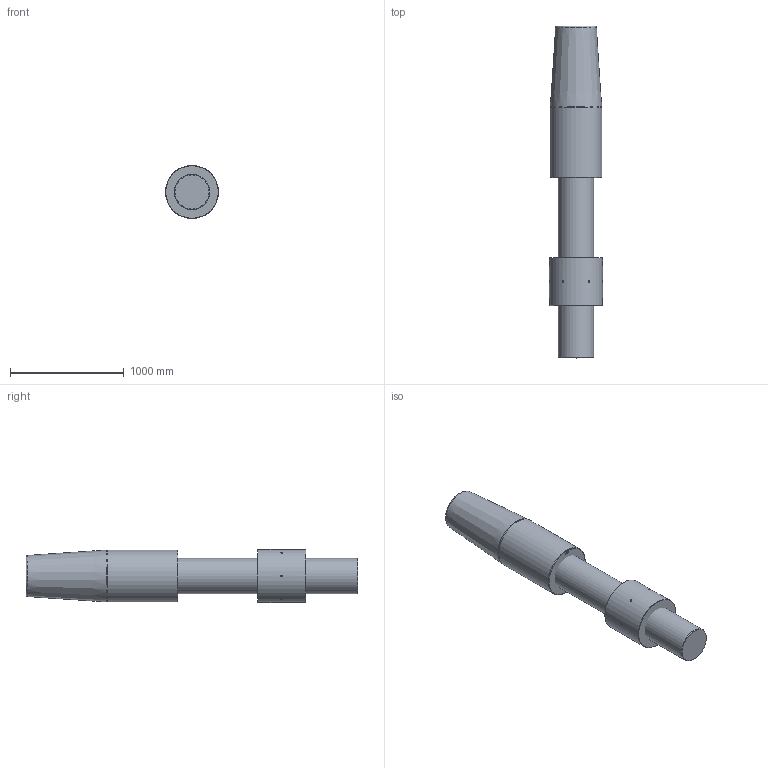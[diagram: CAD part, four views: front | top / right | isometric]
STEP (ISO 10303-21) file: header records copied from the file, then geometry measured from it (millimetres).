
FILE_DESCRIPTION(/* description */ (''),/* implementation_level */ '2;1');
FILE_NAME(/* name */ 'C:\Users\ranca\Desktop\CYM\ARRANGEMENT\CYM156 52 061 0.stp',/* time_stamp */ '2021-04-24T09:53:46+02:00',/* author */ ('ranca'),/* organization */ (''),/* preprocessor_version */ 'ST-DEVELOPER v16.13',/* originating_system */ 'Autodesk Inventor 2018',/* authorisation */ '');
FILE_SCHEMA (('AUTOMOTIVE_DESIGN { 1 0 10303 214 3 1 1 }'));
Length unit declared in the file: millimetre
Products named in the file (4): CYM156-52-061-0; CYM012-52-061-0_ROD; CYC156 52 065 0_CYL SOK_RH; CYM156-41-051-0
Assembly tree (3 placements, depth 2):
  CYM156-52-061-0
    CYM012-52-061-0_ROD
    CYC156 52 065 0_CYL SOK_RH
    CYM156-41-051-0
Bounding box: 465 x 2912 x 465 mm (x, y, z)
Volume: 416419262.9 mm3; surface area: 5104732 mm2
Topology: 3 solids, 3 shells, 528 faces, 1432 edges, 952 vertices
Faces by surface type: bspline 259, plane 247, cone 11, cylinder 9, torus 2
Full cylindrical faces by diameter (mm): 15 x6, 310 x1, 455 x1, 465 x1
Entity records: 18001 total; most frequent: CARTESIAN_POINT 6476, ORIENTED_EDGE 2806, DIRECTION 1448, EDGE_CURVE 1403, VERTEX_POINT 946, LINE 852, VECTOR 852, EDGE_LOOP 593
